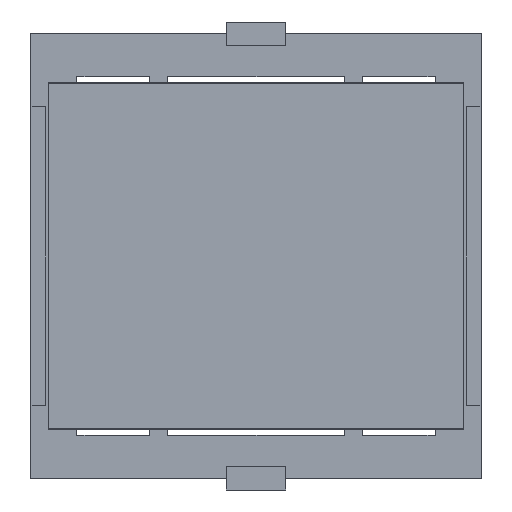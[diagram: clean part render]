
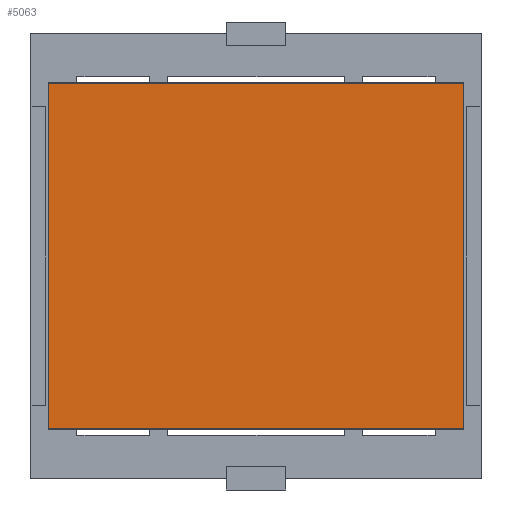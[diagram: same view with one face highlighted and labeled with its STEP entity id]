
A CAD part, front view. The second image highlights one B-rep face of the part: STEP entity #5063.
In plain terms, the highlighted planar face has unit normal (0, -1, 0).
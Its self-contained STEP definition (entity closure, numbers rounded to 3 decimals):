
#413 = LINE ( 'NONE', #2541, #1491 ) ;
#460 = DIRECTION ( 'NONE',  ( -1., 0., 0. ) ) ;
#565 = CARTESIAN_POINT ( 'NONE',  ( -15.712, -18.701, 26.207 ) ) ;
#701 = EDGE_CURVE ( 'NONE', #5261, #2441, #2949, .T. ) ;
#743 = CARTESIAN_POINT ( 'NONE',  ( -15.712, -18.701, 26.207 ) ) ;
#808 = ORIENTED_EDGE ( 'NONE', *, *, #1199, .F. ) ;
#854 = CARTESIAN_POINT ( 'NONE',  ( 19.086, -18.701, -2.749 ) ) ;
#919 = CARTESIAN_POINT ( 'NONE',  ( 19.086, -18.701, 26.207 ) ) ;
#1199 = EDGE_CURVE ( 'NONE', #2441, #4681, #413, .T. ) ;
#1324 = DIRECTION ( 'NONE',  ( 0., 0., 1. ) ) ;
#1491 = VECTOR ( 'NONE', #4162, 1000. ) ;
#1597 = EDGE_CURVE ( 'NONE', #5178, #5261, #5093, .T. ) ;
#1899 = VECTOR ( 'NONE', #3967, 1000. ) ;
#2441 = VERTEX_POINT ( 'NONE', #919 ) ;
#2541 = CARTESIAN_POINT ( 'NONE',  ( 19.086, -18.701, -2.749 ) ) ;
#2645 = FACE_OUTER_BOUND ( 'NONE', #3623, .T. ) ;
#2860 = DIRECTION ( 'NONE',  ( 0., 1., 0. ) ) ;
#2949 = LINE ( 'NONE', #3557, #4034 ) ;
#2975 = AXIS2_PLACEMENT_3D ( 'NONE', #743, #2860, #1324 ) ;
#3448 = CARTESIAN_POINT ( 'NONE',  ( -15.712, -18.701, -2.749 ) ) ;
#3532 = ORIENTED_EDGE ( 'NONE', *, *, #6540, .F. ) ;
#3557 = CARTESIAN_POINT ( 'NONE',  ( -15.712, -18.701, 26.207 ) ) ;
#3623 = EDGE_LOOP ( 'NONE', ( #5318, #3532, #808, #6621 ) ) ;
#3701 = LINE ( 'NONE', #5808, #3968 ) ;
#3967 = DIRECTION ( 'NONE',  ( 0., 0., 1. ) ) ;
#3968 = VECTOR ( 'NONE', #460, 1000. ) ;
#4034 = VECTOR ( 'NONE', #6797, 1000. ) ;
#4162 = DIRECTION ( 'NONE',  ( 0., 0., -1. ) ) ;
#4547 = CARTESIAN_POINT ( 'NONE',  ( -15.712, -18.701, -2.749 ) ) ;
#4681 = VERTEX_POINT ( 'NONE', #854 ) ;
#4879 = PLANE ( 'NONE',  #2975 ) ;
#5063 = ADVANCED_FACE ( 'NONE', ( #2645 ), #4879, .F. ) ;
#5093 = LINE ( 'NONE', #4547, #1899 ) ;
#5178 = VERTEX_POINT ( 'NONE', #3448 ) ;
#5261 = VERTEX_POINT ( 'NONE', #565 ) ;
#5318 = ORIENTED_EDGE ( 'NONE', *, *, #1597, .F. ) ;
#5808 = CARTESIAN_POINT ( 'NONE',  ( -15.712, -18.701, -2.749 ) ) ;
#6540 = EDGE_CURVE ( 'NONE', #4681, #5178, #3701, .T. ) ;
#6621 = ORIENTED_EDGE ( 'NONE', *, *, #701, .F. ) ;
#6797 = DIRECTION ( 'NONE',  ( 1., 0., 0. ) ) ;
